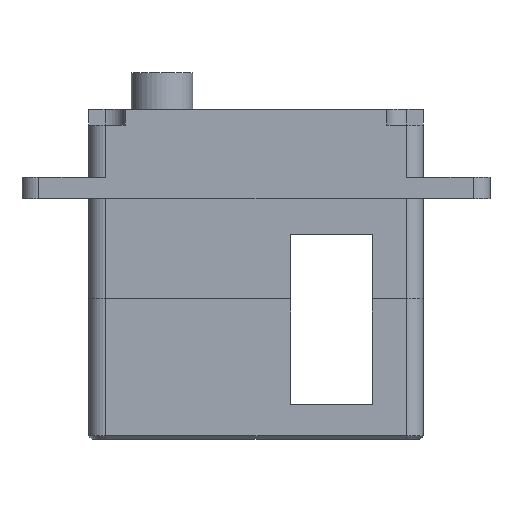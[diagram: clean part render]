
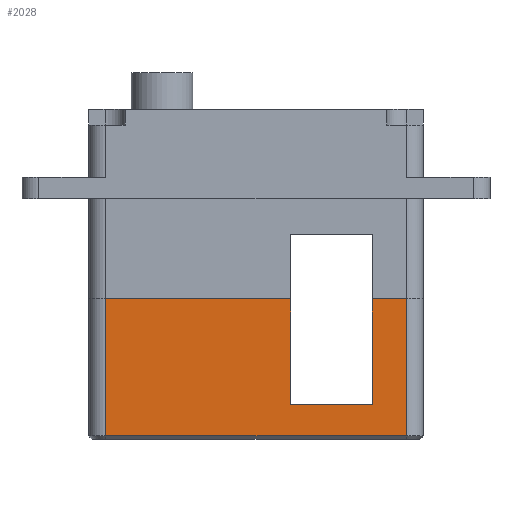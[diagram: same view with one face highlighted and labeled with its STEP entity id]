
A CAD part, front view. The second image highlights one B-rep face of the part: STEP entity #2028.
In plain terms, the highlighted planar face has unit normal (0, -1, 0).
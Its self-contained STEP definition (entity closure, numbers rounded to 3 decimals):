
#127 = CARTESIAN_POINT ( 'NONE',  ( 13.5, -5., -9. ) ) ;
#269 = VERTEX_POINT ( 'NONE', #2895 ) ;
#471 = ORIENTED_EDGE ( 'NONE', *, *, #4722, .T. ) ;
#592 = DIRECTION ( 'NONE',  ( 0., 0., 1. ) ) ;
#867 = ORIENTED_EDGE ( 'NONE', *, *, #6459, .T. ) ;
#1014 = VERTEX_POINT ( 'NONE', #3799 ) ;
#1074 = LINE ( 'NONE', #1782, #7600 ) ;
#1153 = DIRECTION ( 'NONE',  ( 0., 0., -1. ) ) ;
#1183 = DIRECTION ( 'NONE',  ( 1., 0., 0. ) ) ;
#1257 = VERTEX_POINT ( 'NONE', #4426 ) ;
#1311 = AXIS2_PLACEMENT_3D ( 'NONE', #7286, #4137, #2236 ) ;
#1334 = CARTESIAN_POINT ( 'NONE',  ( 13.5, -5., -9. ) ) ;
#1381 = VECTOR ( 'NONE', #6760, 1000. ) ;
#1392 = VECTOR ( 'NONE', #5872, 1000. ) ;
#1484 = LINE ( 'NONE', #1334, #8016 ) ;
#1782 = CARTESIAN_POINT ( 'NONE',  ( 15., -5., -9. ) ) ;
#1865 = EDGE_CURVE ( 'NONE', #1014, #3385, #6708, .T. ) ;
#1908 = LINE ( 'NONE', #4353, #4565 ) ;
#2028 = ADVANCED_FACE ( 'NONE', ( #5634 ), #4769, .T. ) ;
#2100 = CARTESIAN_POINT ( 'NONE',  ( 15., -5., -9. ) ) ;
#2236 = DIRECTION ( 'NONE',  ( 0., 0., -1. ) ) ;
#2510 = LINE ( 'NONE', #8163, #2889 ) ;
#2682 = LINE ( 'NONE', #4583, #1392 ) ;
#2839 = LINE ( 'NONE', #6773, #4427 ) ;
#2889 = VECTOR ( 'NONE', #592, 1000. ) ;
#2893 = ORIENTED_EDGE ( 'NONE', *, *, #4553, .T. ) ;
#2895 = CARTESIAN_POINT ( 'NONE',  ( 3.11, -5., -18.5 ) ) ;
#2994 = EDGE_CURVE ( 'NONE', #3567, #1257, #2839, .T. ) ;
#2998 = CARTESIAN_POINT ( 'NONE',  ( 13.5, -5., -21.3 ) ) ;
#3253 = DIRECTION ( 'NONE',  ( 0., 0., 1. ) ) ;
#3385 = VERTEX_POINT ( 'NONE', #4260 ) ;
#3524 = ORIENTED_EDGE ( 'NONE', *, *, #2994, .T. ) ;
#3567 = VERTEX_POINT ( 'NONE', #3860 ) ;
#3605 = DIRECTION ( 'NONE',  ( -1., 0., 0. ) ) ;
#3650 = CARTESIAN_POINT ( 'NONE',  ( -13.5, -5., -21.653 ) ) ;
#3799 = CARTESIAN_POINT ( 'NONE',  ( -13.5, -5., -21.3 ) ) ;
#3860 = CARTESIAN_POINT ( 'NONE',  ( 10.44, -5., -9. ) ) ;
#3968 = VECTOR ( 'NONE', #7862, 1000. ) ;
#4003 = VERTEX_POINT ( 'NONE', #2998 ) ;
#4031 = EDGE_CURVE ( 'NONE', #1014, #4003, #1908, .T. ) ;
#4042 = EDGE_CURVE ( 'NONE', #269, #5766, #2510, .T. ) ;
#4137 = DIRECTION ( 'NONE',  ( 0., -1., 0. ) ) ;
#4260 = CARTESIAN_POINT ( 'NONE',  ( -13.5, -5., -9. ) ) ;
#4353 = CARTESIAN_POINT ( 'NONE',  ( 13.5, -5., -21.3 ) ) ;
#4358 = EDGE_LOOP ( 'NONE', ( #2893, #7872, #3524, #471, #7530, #867, #8169, #4758 ) ) ;
#4426 = CARTESIAN_POINT ( 'NONE',  ( 10.44, -5., -18.5 ) ) ;
#4427 = VECTOR ( 'NONE', #1153, 1000. ) ;
#4553 = EDGE_CURVE ( 'NONE', #4003, #7316, #1484, .T. ) ;
#4565 = VECTOR ( 'NONE', #1183, 1000. ) ;
#4583 = CARTESIAN_POINT ( 'NONE',  ( 15., -5., -18.5 ) ) ;
#4722 = EDGE_CURVE ( 'NONE', #1257, #269, #2682, .T. ) ;
#4758 = ORIENTED_EDGE ( 'NONE', *, *, #4031, .T. ) ;
#4769 = PLANE ( 'NONE',  #1311 ) ;
#5282 = EDGE_CURVE ( 'NONE', #7316, #3567, #7411, .T. ) ;
#5634 = FACE_OUTER_BOUND ( 'NONE', #4358, .T. ) ;
#5691 = CARTESIAN_POINT ( 'NONE',  ( 3.11, -5., -9. ) ) ;
#5766 = VERTEX_POINT ( 'NONE', #5691 ) ;
#5872 = DIRECTION ( 'NONE',  ( -1., 0., 0. ) ) ;
#6459 = EDGE_CURVE ( 'NONE', #5766, #3385, #1074, .T. ) ;
#6708 = LINE ( 'NONE', #3650, #1381 ) ;
#6760 = DIRECTION ( 'NONE',  ( 0., 0., 1. ) ) ;
#6773 = CARTESIAN_POINT ( 'NONE',  ( 10.44, -5., -9. ) ) ;
#7286 = CARTESIAN_POINT ( 'NONE',  ( 15., -5., -9. ) ) ;
#7316 = VERTEX_POINT ( 'NONE', #127 ) ;
#7411 = LINE ( 'NONE', #2100, #3968 ) ;
#7530 = ORIENTED_EDGE ( 'NONE', *, *, #4042, .T. ) ;
#7600 = VECTOR ( 'NONE', #3605, 1000. ) ;
#7862 = DIRECTION ( 'NONE',  ( -1., 0., 0. ) ) ;
#7872 = ORIENTED_EDGE ( 'NONE', *, *, #5282, .T. ) ;
#8016 = VECTOR ( 'NONE', #3253, 1000. ) ;
#8163 = CARTESIAN_POINT ( 'NONE',  ( 3.11, -5., -9. ) ) ;
#8169 = ORIENTED_EDGE ( 'NONE', *, *, #1865, .F. ) ;
